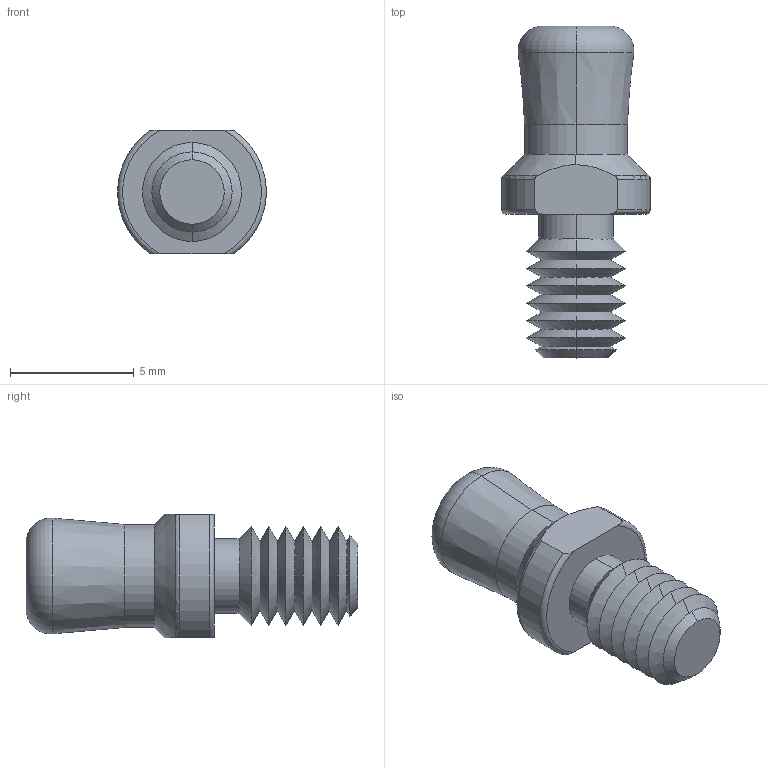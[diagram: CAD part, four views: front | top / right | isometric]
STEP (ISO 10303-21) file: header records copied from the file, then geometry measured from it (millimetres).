
FILE_DESCRIPTION (( 'STEP AP203' ), '1' );
FILE_NAME ('Default.step', '2018-04-08T13:28:37', ( '' ), ( '' ), 'SwSTEP 2.0', 'SolidWorks 2017', '' );
FILE_SCHEMA (( 'CONFIG_CONTROL_DESIGN' ));
Length unit declared in the file: millimetre
Products named in the file (1): Default
Bounding box: 6 x 13.4 x 5 mm (x, y, z)
Volume: 184 mm3; surface area: 258.7 mm2
Topology: 1 solids, 1 shells, 49 faces, 104 edges, 58 vertices
Faces by surface type: cone 32, cylinder 6, torus 6, plane 5
Entity records: 1421 total; most frequent: CARTESIAN_POINT 284, DIRECTION 242, ORIENTED_EDGE 208, EDGE_CURVE 104, AXIS2_PLACEMENT_3D 100, VERTEX_POINT 58, CIRCLE 50, EDGE_LOOP 50
